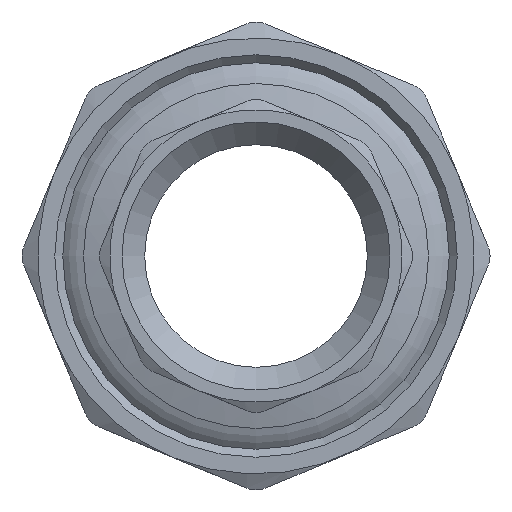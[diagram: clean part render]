
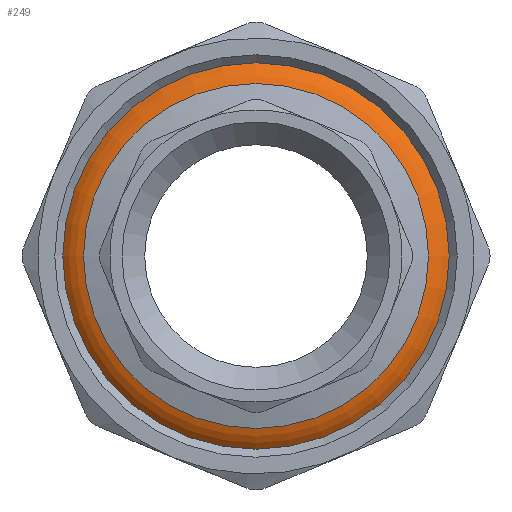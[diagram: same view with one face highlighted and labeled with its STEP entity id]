
A CAD part, front view. The second image highlights one B-rep face of the part: STEP entity #249.
In plain terms, the highlighted toroidal (fillet/blend) face has major radius 13.405 mm and minor radius 4 mm.
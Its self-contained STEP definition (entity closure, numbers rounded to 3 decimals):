
#249=ADVANCED_FACE('',(#1645,#1647),#1649,.T.);
#1645=FACE_BOUND('',#1646,.T.);
#1646=EDGE_LOOP('',(#2940,#2941));
#1647=FACE_BOUND('',#1648,.T.);
#1648=EDGE_LOOP('',(#2942,#2943));
#1649=TOROIDAL_SURFACE('',#1650,13.405,4.);
#1650=AXIS2_PLACEMENT_3D('',#1651,#1652,#1653);
#1651=CARTESIAN_POINT('',(0.,14.772,0.));
#1652=DIRECTION('',(0.,1.,0.));
#1653=DIRECTION('',(0.,0.,1.));
#2940=ORIENTED_EDGE('',*,*,#3581,.F.);
#2941=ORIENTED_EDGE('',*,*,#3580,.F.);
#2942=ORIENTED_EDGE('',*,*,#3615,.F.);
#2943=ORIENTED_EDGE('',*,*,#3616,.F.);
#3580=EDGE_CURVE('',#4489,#4490,#4491,.F.);
#3581=EDGE_CURVE('',#4490,#4489,#4492,.F.);
#3615=EDGE_CURVE('',#4543,#4544,#4545,.F.);
#3616=EDGE_CURVE('',#4544,#4543,#4546,.F.);
#4489=VERTEX_POINT('',#8827);
#4490=VERTEX_POINT('',#8828);
#4491=CIRCLE('',#8829,16.174);
#4492=CIRCLE('',#8833,16.174);
#4543=VERTEX_POINT('',#9489);
#4544=VERTEX_POINT('',#9490);
#4545=CIRCLE('',#9491,14.44);
#4546=CIRCLE('',#9495,14.44);
#8827=CARTESIAN_POINT('',(16.174,11.885,0.));
#8828=CARTESIAN_POINT('',(0.,11.885,16.174));
#8829=AXIS2_PLACEMENT_3D('',#8830,#8831,#8832);
#8830=CARTESIAN_POINT('',(0.,11.885,0.));
#8831=DIRECTION('',(0.,-1.,0.));
#8832=DIRECTION('',(0.,0.,1.));
#8833=AXIS2_PLACEMENT_3D('',#8834,#8835,#8836);
#8834=CARTESIAN_POINT('',(0.,11.885,0.));
#8835=DIRECTION('',(0.,-1.,0.));
#8836=DIRECTION('',(1.,0.,0.));
#9489=CARTESIAN_POINT('',(-14.44,10.908,0.));
#9490=CARTESIAN_POINT('',(0.,10.908,14.44));
#9491=AXIS2_PLACEMENT_3D('',#9492,#9493,#9494);
#9492=CARTESIAN_POINT('',(0.,10.908,0.));
#9493=DIRECTION('',(0.,1.,0.));
#9494=DIRECTION('',(0.,0.,1.));
#9495=AXIS2_PLACEMENT_3D('',#9496,#9497,#9498);
#9496=CARTESIAN_POINT('',(0.,10.908,0.));
#9497=DIRECTION('',(0.,1.,0.));
#9498=DIRECTION('',(-1.,0.,0.));
